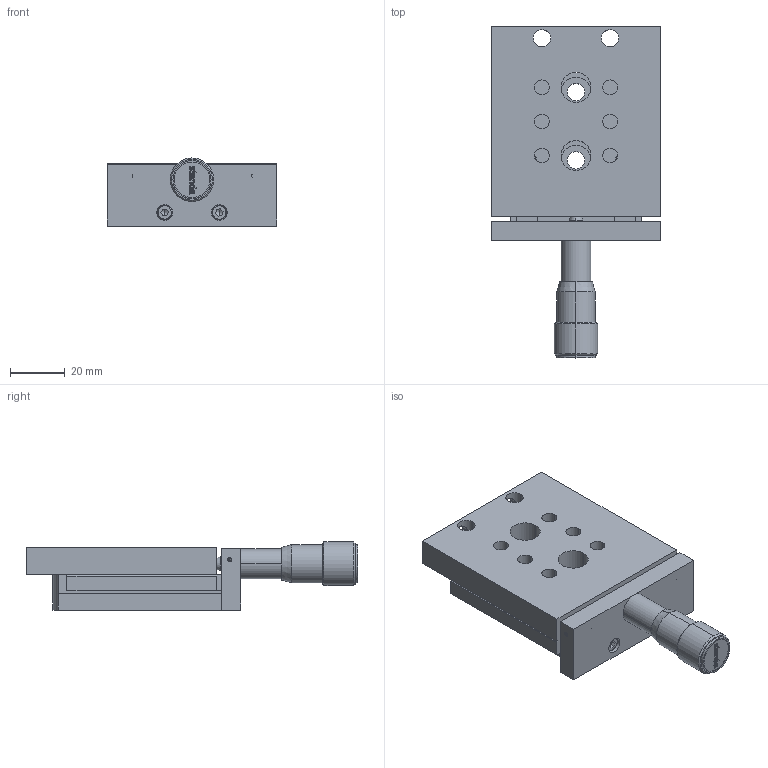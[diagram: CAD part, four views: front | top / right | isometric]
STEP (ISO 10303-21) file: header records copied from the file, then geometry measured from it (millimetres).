
FILE_DESCRIPTION (( 'STEP AP203' ), '1' );
FILE_NAME ('7T125X-10.STEP', '2008-02-09T05:23:05', ( 'STANDA' ), ( '' ), 'SwSTEP 2.0', 'SolidWorks 2003240', '' );
FILE_SCHEMA (( 'CONFIG_CONTROL_DESIGN' ));
Length unit declared in the file: millimetre
Products named in the file (1): 7T125X-10
Bounding box: 62 x 121.72 x 25 mm (x, y, z)
Volume: 88563.6 mm3; surface area: 34896.5 mm2
Topology: 1 solids, 27 shells, 843 faces, 2162 edges, 1390 vertices
Faces by surface type: plane 337, cylinder 282, bspline 115, cone 109
Entity records: 28230 total; most frequent: CARTESIAN_POINT 8479, ORIENTED_EDGE 4160, DIRECTION 3845, EDGE_CURVE 2080, AXIS2_PLACEMENT_3D 1432, VERTEX_POINT 1390, EDGE_LOOP 1026, VECTOR 981
